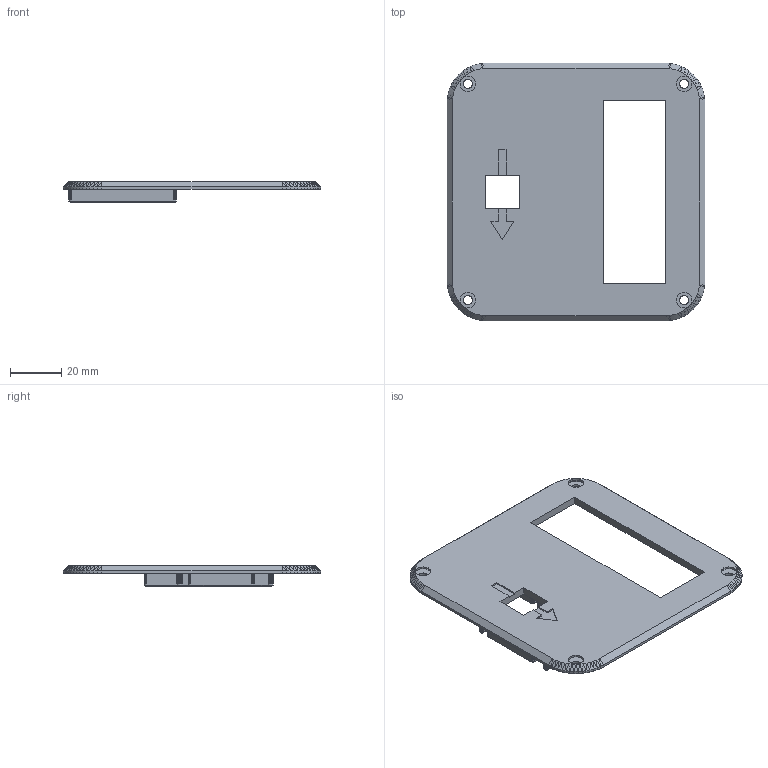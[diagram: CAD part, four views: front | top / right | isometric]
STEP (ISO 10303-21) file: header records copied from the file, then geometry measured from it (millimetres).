
FILE_DESCRIPTION(/* description */ (''),/* implementation_level */ '2;1');
FILE_NAME(/* name */ 'C:/Users/Vincent/Desktop/NOVE3D/Documents clients (ssd ext)/140 - Valin/Couvercle v3.step',/* time_stamp */ '2021-11-09T18:22:19+01:00',/* author */ (''),/* organization */ (''),/* preprocessor_version */ 'ST-DEVELOPER v18.1',/* originating_system */ 'Autodesk Translation Framework v10.10.0.1391',/* authorisation */ '');
FILE_SCHEMA (('AUTOMOTIVE_DESIGN { 1 0 10303 214 3 1 1 }'));
Length unit declared in the file: millimetre
Products named in the file (1): Couvercle
Bounding box: 100 x 100 x 8 mm (x, y, z)
Volume: 25433.1 mm3; surface area: 19920.7 mm2
Topology: 1 solids, 1 shells, 583 faces, 1234 edges, 656 vertices
Faces by surface type: plane 571, cylinder 8, cone 4
Full cylindrical faces by diameter (mm): 3.5 x4, 5.95 x4
Entity records: 14701 total; most frequent: CARTESIAN_POINT 2474, ORIENTED_EDGE 2468, DIRECTION 2418, EDGE_CURVE 1234, LINE 1218, VECTOR 1218, VERTEX_POINT 656, AXIS2_PLACEMENT_3D 600
